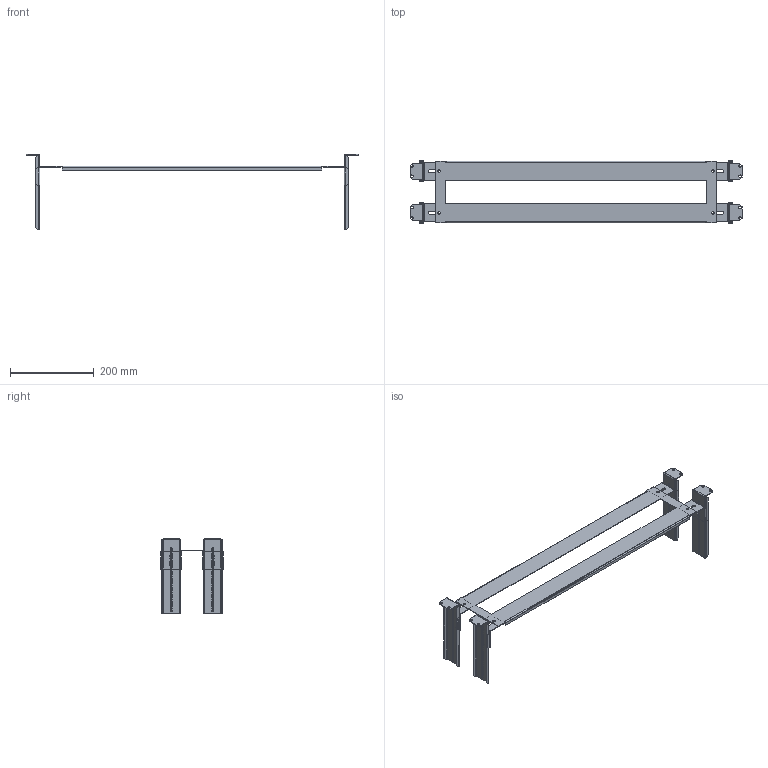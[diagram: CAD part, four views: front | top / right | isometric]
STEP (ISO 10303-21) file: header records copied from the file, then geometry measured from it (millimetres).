
FILE_DESCRIPTION(('STEP AP203'), '1');
FILE_NAME('Êîìïëåêò óñòàíîâêè ìîäóëüíûõ àâòîìàòîâ Â150õØ800 ìì OptiBox M 419157 ÊÝÀÇ', '', ('UNSPECIFIED'), ('UNSPECIFIED'), 'C3D Converter', 'C3D Toolkit', '');
FILE_SCHEMA(('CONFIG_CONTROL_DESIGN'));
Length unit declared in the file: millimetre
Bounding box: 795 x 149 x 180 mm (x, y, z)
Volume: 199165.7 mm3; surface area: 288236 mm2
Topology: 9 solids, 9 shells, 498 faces, 1232 edges, 752 vertices
Faces by surface type: plane 298, cylinder 200
Full cylindrical faces by diameter (mm): 4.6 x112, 6.3 x12
Entity records: 18552 total; most frequent: DIRECTION 2506, CARTESIAN_POINT 2359, ORIENTED_EDGE 2216, EDGE_CURVE 1108, AXIS2_PLACEMENT_3D 899, EDGE_LOOP 896, VERTEX_POINT 752, LINE 708
